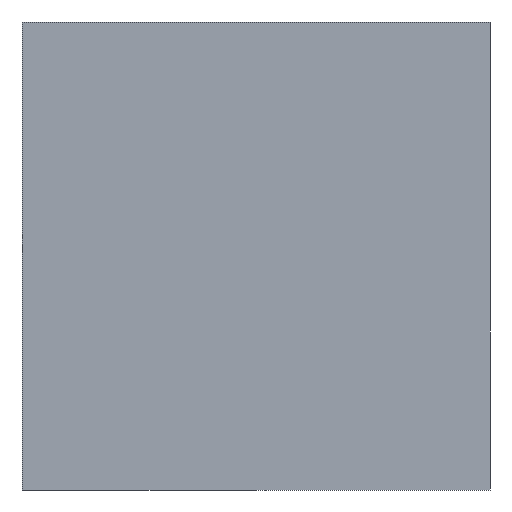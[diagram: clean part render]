
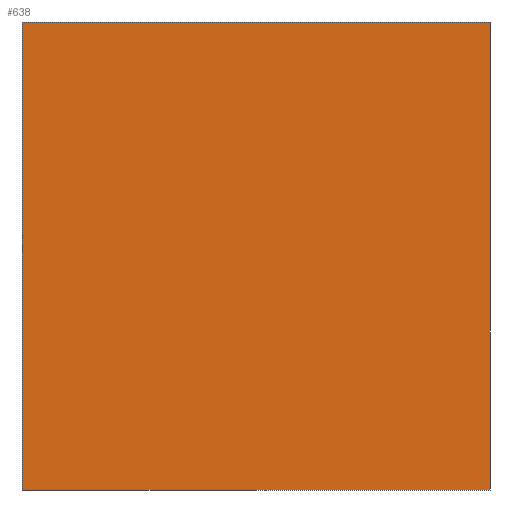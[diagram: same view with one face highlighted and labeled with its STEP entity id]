
A CAD part, left-side view. The second image highlights one B-rep face of the part: STEP entity #638.
In plain terms, the highlighted planar face has unit normal (-1, 0, 0).
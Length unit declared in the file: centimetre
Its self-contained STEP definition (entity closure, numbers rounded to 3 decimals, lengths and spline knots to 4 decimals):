
#15 = CARTESIAN_POINT ( 'NONE',  ( 0., 1000., 1000. ) ) ;
#48 = ORIENTED_EDGE ( 'NONE', *, *, #768, .F. ) ;
#49 = ORIENTED_EDGE ( 'NONE', *, *, #74, .F. ) ;
#64 = DIRECTION ( 'NONE',  ( 0., 0., -1. ) ) ;
#74 = EDGE_CURVE ( 'NONE', #694, #611, #589, .T. ) ;
#92 = CARTESIAN_POINT ( 'NONE',  ( 0., 0., 1000. ) ) ;
#160 = CARTESIAN_POINT ( 'NONE',  ( 0., 1000., 1000. ) ) ;
#175 = CARTESIAN_POINT ( 'NONE',  ( 0., 1000., 1000. ) ) ;
#181 = EDGE_LOOP ( 'NONE', ( #373, #48, #49, #482 ) ) ;
#191 = LINE ( 'NONE', #15, #655 ) ;
#203 = LINE ( 'NONE', #741, #404 ) ;
#210 = DIRECTION ( 'NONE',  ( 0., 0., -1. ) ) ;
#266 = CARTESIAN_POINT ( 'NONE',  ( 0., 1000., 1000. ) ) ;
#297 = EDGE_CURVE ( 'NONE', #590, #442, #203, .T. ) ;
#336 = CARTESIAN_POINT ( 'NONE',  ( 0., 1000., 0. ) ) ;
#353 = VECTOR ( 'NONE', #703, 100. ) ;
#368 = DIRECTION ( 'NONE',  ( 0., 0., -1. ) ) ;
#373 = ORIENTED_EDGE ( 'NONE', *, *, #297, .T. ) ;
#389 = PLANE ( 'NONE',  #409 ) ;
#393 = FACE_OUTER_BOUND ( 'NONE', #181, .T. ) ;
#404 = VECTOR ( 'NONE', #617, 100. ) ;
#409 = AXIS2_PLACEMENT_3D ( 'NONE', #266, #495, #210 ) ;
#442 = VERTEX_POINT ( 'NONE', #757 ) ;
#465 = VECTOR ( 'NONE', #64, 100. ) ;
#482 = ORIENTED_EDGE ( 'NONE', *, *, #770, .T. ) ;
#495 = DIRECTION ( 'NONE',  ( 1., 0., 0. ) ) ;
#589 = LINE ( 'NONE', #175, #353 ) ;
#590 = VERTEX_POINT ( 'NONE', #336 ) ;
#611 = VERTEX_POINT ( 'NONE', #92 ) ;
#617 = DIRECTION ( 'NONE',  ( 0., -1., 0. ) ) ;
#638 = ADVANCED_FACE ( 'NONE', ( #393 ), #389, .F. ) ;
#655 = VECTOR ( 'NONE', #368, 100. ) ;
#663 = CARTESIAN_POINT ( 'NONE',  ( 0., 0., 1000. ) ) ;
#694 = VERTEX_POINT ( 'NONE', #160 ) ;
#703 = DIRECTION ( 'NONE',  ( 0., -1., 0. ) ) ;
#732 = LINE ( 'NONE', #663, #465 ) ;
#741 = CARTESIAN_POINT ( 'NONE',  ( 0., 1000., 0. ) ) ;
#757 = CARTESIAN_POINT ( 'NONE',  ( 0., 0., 0. ) ) ;
#768 = EDGE_CURVE ( 'NONE', #611, #442, #732, .T. ) ;
#770 = EDGE_CURVE ( 'NONE', #694, #590, #191, .T. ) ;
